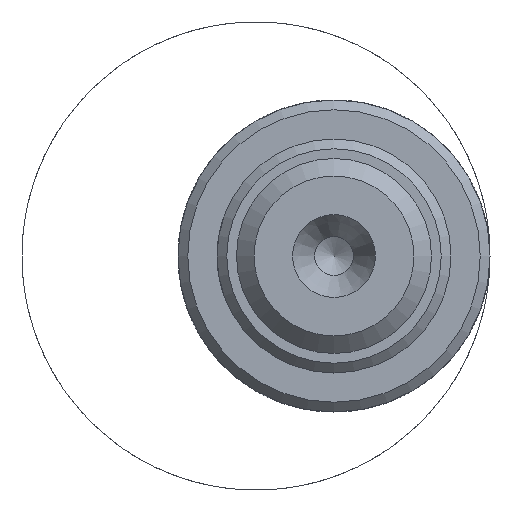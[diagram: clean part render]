
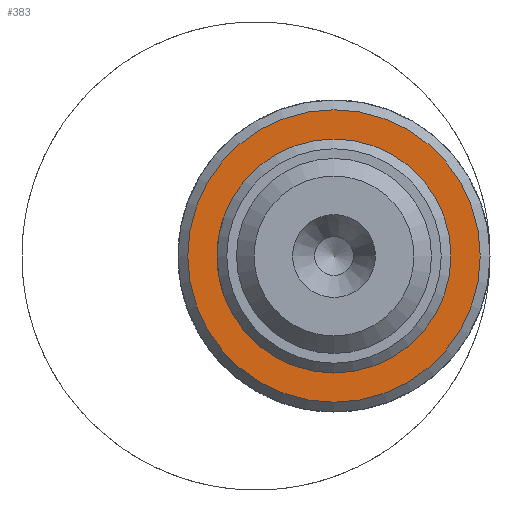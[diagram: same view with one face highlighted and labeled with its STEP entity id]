
A CAD part, left-side view. The second image highlights one B-rep face of the part: STEP entity #383.
In plain terms, the highlighted planar face has unit normal (-1, 0, 0).
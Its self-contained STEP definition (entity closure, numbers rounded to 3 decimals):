
#20=FACE_BOUND('',#86,.T.);
#30=PLANE('',#449);
#58=FACE_OUTER_BOUND('',#85,.T.);
#85=EDGE_LOOP('',(#320));
#86=EDGE_LOOP('',(#321));
#161=CIRCLE('',#448,7.5);
#162=CIRCLE('',#450,6.);
#193=VERTEX_POINT('',#705);
#194=VERTEX_POINT('',#709);
#238=EDGE_CURVE('',#193,#193,#161,.T.);
#240=EDGE_CURVE('',#194,#194,#162,.T.);
#320=ORIENTED_EDGE('',*,*,#238,.T.);
#321=ORIENTED_EDGE('',*,*,#240,.F.);
#383=ADVANCED_FACE('',(#58,#20),#30,.T.);
#448=AXIS2_PLACEMENT_3D('',#706,#548,#549);
#449=AXIS2_PLACEMENT_3D('',#708,#551,#552);
#450=AXIS2_PLACEMENT_3D('',#710,#553,#554);
#548=DIRECTION('center_axis',(-1.,0.,0.));
#549=DIRECTION('ref_axis',(0.,0.,1.));
#551=DIRECTION('center_axis',(-1.,0.,0.));
#552=DIRECTION('ref_axis',(0.,0.,1.));
#553=DIRECTION('center_axis',(-1.,0.,0.));
#554=DIRECTION('ref_axis',(0.,0.,1.));
#705=CARTESIAN_POINT('',(-56.,-7.5,0.));
#706=CARTESIAN_POINT('Origin',(-56.,0.,0.));
#708=CARTESIAN_POINT('Origin',(-56.,6.,0.));
#709=CARTESIAN_POINT('',(-56.,-6.,0.));
#710=CARTESIAN_POINT('Origin',(-56.,0.,0.));
